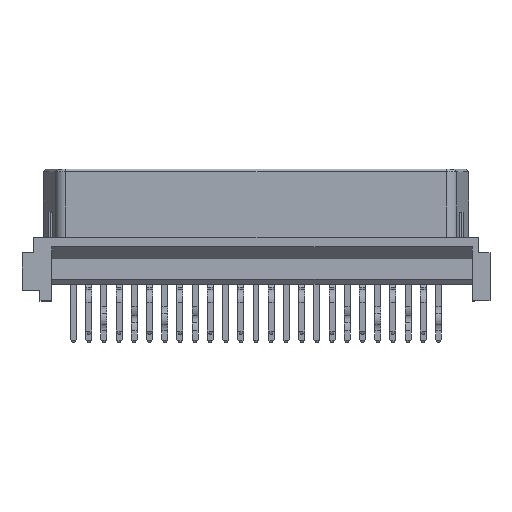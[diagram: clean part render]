
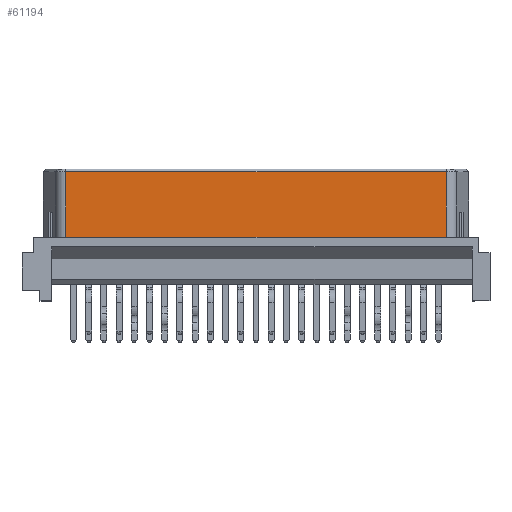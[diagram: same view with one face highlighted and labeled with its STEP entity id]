
A CAD part, top view. The second image highlights one B-rep face of the part: STEP entity #61194.
In plain terms, the highlighted planar face has unit normal (0, 0, 1).
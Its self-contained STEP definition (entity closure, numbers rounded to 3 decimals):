
#409 = EDGE_LOOP ( 'NONE', ( #10251, #48240, #63209, #62864 ) ) ;
#4131 = VERTEX_POINT ( 'NONE', #27011 ) ;
#7514 = LINE ( 'NONE', #27858, #8444 ) ;
#8444 = VECTOR ( 'NONE', #45061, 1000. ) ;
#10251 = ORIENTED_EDGE ( 'NONE', *, *, #29948, .F. ) ;
#10344 = EDGE_CURVE ( 'NONE', #71211, #22768, #7514, .T. ) ;
#10899 = LINE ( 'NONE', #11708, #59833 ) ;
#11708 = CARTESIAN_POINT ( 'NONE',  ( 15.879, 5.7, 2.74 ) ) ;
#14919 = DIRECTION ( 'NONE',  ( -1., 0., 0. ) ) ;
#17676 = DIRECTION ( 'NONE',  ( -1., 0., 0. ) ) ;
#22768 = VERTEX_POINT ( 'NONE', #31808 ) ;
#25843 = EDGE_CURVE ( 'NONE', #55038, #71211, #27504, .T. ) ;
#27011 = CARTESIAN_POINT ( 'NONE',  ( 15.879, 5.5, 2.74 ) ) ;
#27326 = CARTESIAN_POINT ( 'NONE',  ( -15.879, 5.7, 2.74 ) ) ;
#27504 = LINE ( 'NONE', #27326, #60374 ) ;
#27858 = CARTESIAN_POINT ( 'NONE',  ( -15.879, 0., 2.74 ) ) ;
#29948 = EDGE_CURVE ( 'NONE', #4131, #22768, #10899, .T. ) ;
#31618 = CARTESIAN_POINT ( 'NONE',  ( -15.879, 5.7, 2.74 ) ) ;
#31808 = CARTESIAN_POINT ( 'NONE',  ( 15.879, 0., 2.74 ) ) ;
#33905 = DIRECTION ( 'NONE',  ( 0., -1., 0. ) ) ;
#34880 = AXIS2_PLACEMENT_3D ( 'NONE', #31618, #43313, #14919 ) ;
#43313 = DIRECTION ( 'NONE',  ( 0., 0., -1. ) ) ;
#45061 = DIRECTION ( 'NONE',  ( 1., 0., 0. ) ) ;
#45840 = CARTESIAN_POINT ( 'NONE',  ( -15.879, 5.5, 2.74 ) ) ;
#45880 = FACE_OUTER_BOUND ( 'NONE', #409, .T. ) ;
#46500 = LINE ( 'NONE', #45840, #48269 ) ;
#48240 = ORIENTED_EDGE ( 'NONE', *, *, #53965, .T. ) ;
#48269 = VECTOR ( 'NONE', #17676, 1000. ) ;
#48781 = CARTESIAN_POINT ( 'NONE',  ( -15.879, 0., 2.74 ) ) ;
#53965 = EDGE_CURVE ( 'NONE', #4131, #55038, #46500, .T. ) ;
#53977 = PLANE ( 'NONE',  #34880 ) ;
#55038 = VERTEX_POINT ( 'NONE', #72425 ) ;
#59833 = VECTOR ( 'NONE', #33905, 1000. ) ;
#60374 = VECTOR ( 'NONE', #61621, 1000. ) ;
#61194 = ADVANCED_FACE ( 'NONE', ( #45880 ), #53977, .F. ) ;
#61621 = DIRECTION ( 'NONE',  ( 0., -1., 0. ) ) ;
#62864 = ORIENTED_EDGE ( 'NONE', *, *, #10344, .T. ) ;
#63209 = ORIENTED_EDGE ( 'NONE', *, *, #25843, .T. ) ;
#71211 = VERTEX_POINT ( 'NONE', #48781 ) ;
#72425 = CARTESIAN_POINT ( 'NONE',  ( -15.879, 5.5, 2.74 ) ) ;
